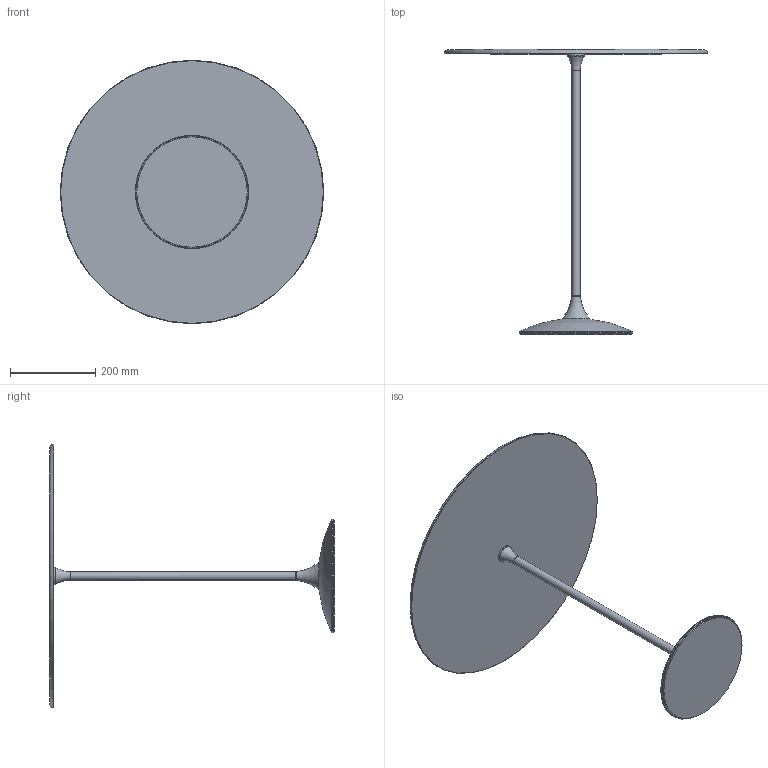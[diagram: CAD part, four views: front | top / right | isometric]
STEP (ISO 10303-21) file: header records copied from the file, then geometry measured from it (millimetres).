
FILE_DESCRIPTION((''),'2;1');
FILE_NAME('C:\AutodeskVault\AreaLavoro\Progetti\SoVeT Italia\2. Tavolini_Coffee tables\Tulip\Web file\Tulip Web\P4620.stp','2012-06-14T17:28:42',('Gianluca'),('So.Ve.T. s.r.l.'),'Autodesk Inventor 2013','Autodesk Inventor 2013','IL PROGETTO E'' DI ESCLUSIVA PROPRIETA'' DELLA SO.VE.T. srl. E'' VIETATA OGNI RIPRODUZIONE TOTALE O PARZIALE E QUALSIASI UTILIZZO NON AUTORIZZATO. ');
FILE_SCHEMA(('AUTOMOTIVE_DESIGN { 1 0 10303 214 1 1 1 1 }'));
Length unit declared in the file: millimetre
Products named in the file (1): P4620 LCTR Contorno semplificato
Bounding box: 620 x 670.45 x 620 mm (x, y, z)
Volume: 4500383 mm3; surface area: 774515 mm2
Topology: 1 solids, 1 shells, 26 faces, 51 edges, 30 vertices
Faces by surface type: cone 7, torus 7, plane 6, cylinder 5, bspline 1
Full cylindrical faces by diameter (mm): 20 x1, 40 x1, 60 x1, 260 x1, 267 x1
Entity records: 614 total; most frequent: CARTESIAN_POINT 102, DIRECTION 102, AXIS2_PLACEMENT_3D 51, ORIENTED_EDGE 50, EDGE_LOOP 50, STYLED_ITEM 27, FACE_OUTER_BOUND 26, ADVANCED_FACE 26
